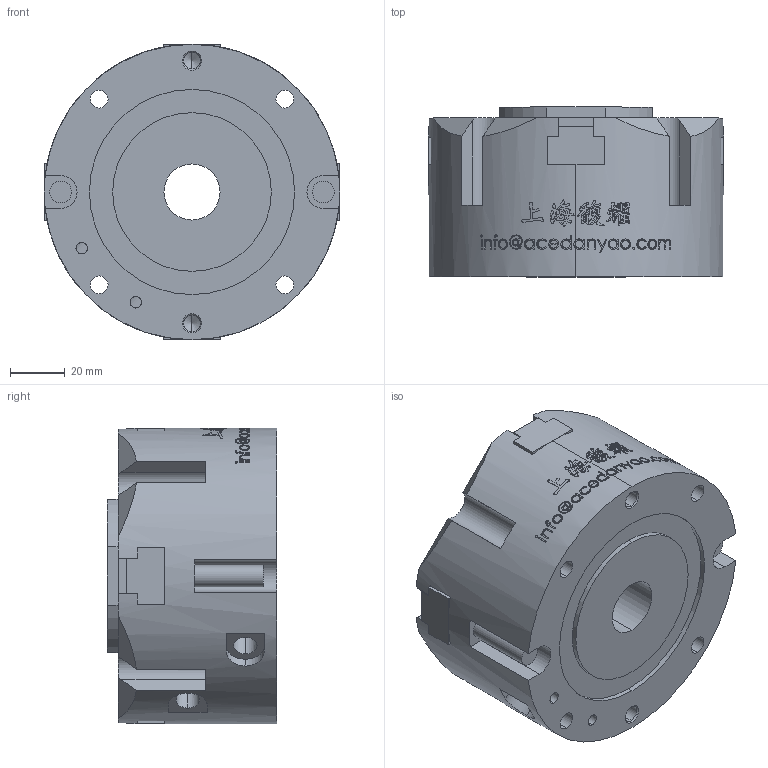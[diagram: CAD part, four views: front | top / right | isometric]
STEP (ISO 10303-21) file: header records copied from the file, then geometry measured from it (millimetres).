
FILE_DESCRIPTION (( 'STEP AP203' ), '1' );
FILE_NAME ('MFB4-110-原始檔-組合-W106.04.17.STEP', '2017-04-17T03:51:09', ( 'DanyaoCAD' ), ( '' ), 'SwSTEP 2.0', 'SolidWorks 2016', '' );
FILE_SCHEMA (( 'CONFIG_CONTROL_DESIGN' ));
Length unit declared in the file: millimetre
Products named in the file (4): Griffa; Corpo; Coperchio; MFB4-110-原始檔-組合-W106.04.17
Assembly tree (6 placements, depth 2):
  MFB4-110-原始檔-組合-W106.04.17
    Griffa  x4
    Corpo
    Coperchio
Bounding box: 108 x 62 x 108 mm (x, y, z)
Volume: 474794.4 mm3; surface area: 77314.4 mm2
Topology: 6 solids, 6 shells, 1076 faces, 2994 edges, 1972 vertices
Faces by surface type: bspline 665, plane 252, cylinder 123, cone 36
Entity records: 101275 total; most frequent: CARTESIAN_POINT 81478, ORIENTED_EDGE 5478, EDGE_CURVE 2739, B_SPLINE_CURVE_WITH_KNOTS 2039, VERTEX_POINT 1822, DIRECTION 1535, EDGE_LOOP 1053, FACE_OUTER_BOUND 980
